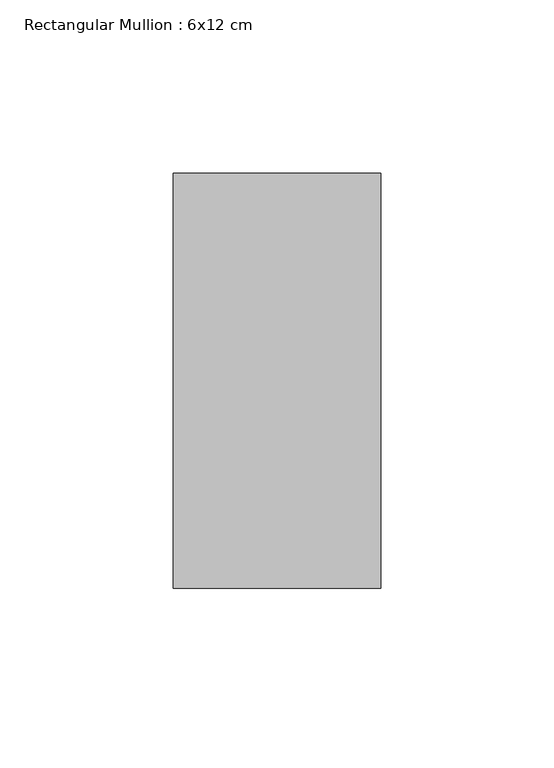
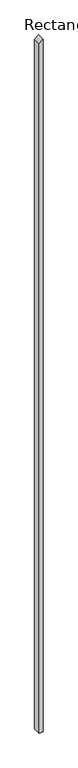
"""IFC4 building model written with IfcOpenShell, lengths in millimetres: member geometry, Rectangular Mullion : 6x12 cm."""

from ifc_helpers import new_model, si_unit, frame, origin, place, context, project, spatial, polyline, outline, extrude, source, transform, mapped, element, save


def rectangular_mullion_6x12_cm_35aae1c9(model_context):
    return source(origin(), model_context, "Body", "SweptSolid", [
        extrude(outline(polyline([(-53.0382846, 30.0), (-102.5744079, -30.0), (-11259.6368217, -30.0), (-11259.6368217, 30.0), (-53.0382846, 30.0)])), frame((0.0, 85.0, 0.0), z_axis=(0.0, 1.0, 0.0), x_axis=(0.0, 0.0, 1.0)), (0.0, 0.0, 1.0), 120.0),
    ])


if __name__ == "__main__":
    model = new_model("IFC4")
    model_context = context("Model", 3, world=origin())
    ifc_project = project(units=[si_unit("LENGTHUNIT", "METRE", prefix="MILLI")], contexts=[model_context])
    site = spatial("IfcSite", under=ifc_project)
    building = spatial("IfcBuilding", under=site)
    placement = place(None, origin())
    rectangular_mullion_6x12_cm_shape = rectangular_mullion_6x12_cm_35aae1c9(model_context)
    element("IfcMember", 1, ObjectType="Rectangular Mullion : 6x12 cm", at=placement, inside=building, context=model_context, shape_type="MappedRepresentation", body=[
        mapped(rectangular_mullion_6x12_cm_shape, transform((0.0, 0.0, 0.0), x_axis=(1.0, 0.0, 0.0), y_axis=(0.0, 1.0, 0.0), z_axis=(0.0, 0.0, 1.0))),
    ])
    save(model, "model.ifc")
